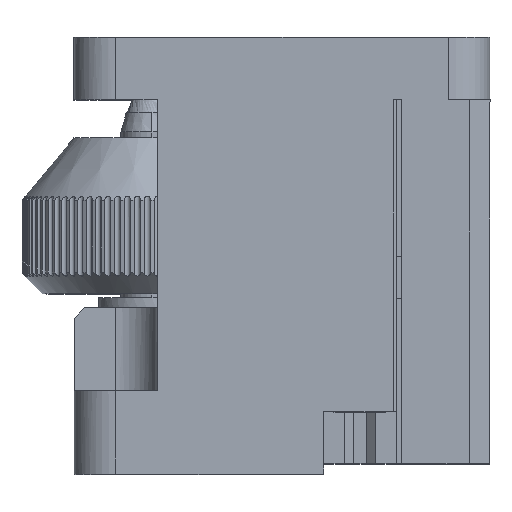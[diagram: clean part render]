
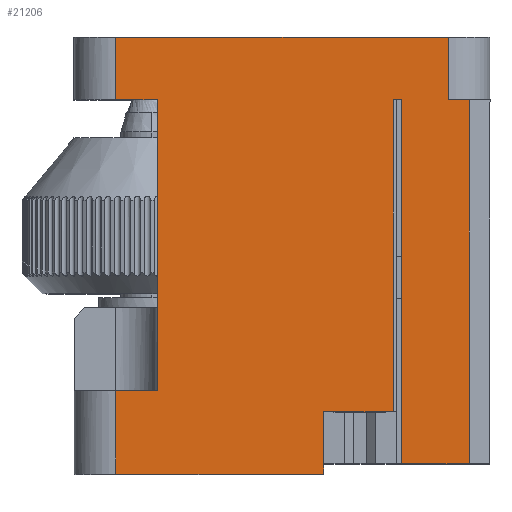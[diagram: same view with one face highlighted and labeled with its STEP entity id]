
A CAD part, top view. The second image highlights one B-rep face of the part: STEP entity #21206.
In plain terms, the highlighted planar face has unit normal (0, 0, 1).
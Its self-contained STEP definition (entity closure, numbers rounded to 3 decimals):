
#16689 = EDGE_CURVE ( 'NONE', #16700, #16692, #34047, .T. ) ;
#16692 = VERTEX_POINT ( 'NONE', #34043 ) ;
#16700 = VERTEX_POINT ( 'NONE', #34027 ) ;
#21167 = VERTEX_POINT ( 'NONE', #44595 ) ;
#21169 = ORIENTED_EDGE ( 'NONE', *, *, #21172, .T. ) ;
#21172 = EDGE_CURVE ( 'NONE', #21167, #21173, #44589, .T. ) ;
#21173 = VERTEX_POINT ( 'NONE', #44585 ) ;
#21175 = ORIENTED_EDGE ( 'NONE', *, *, #21176, .T. ) ;
#21176 = EDGE_CURVE ( 'NONE', #21173, #21177, #44584, .T. ) ;
#21177 = VERTEX_POINT ( 'NONE', #44580 ) ;
#21197 = ORIENTED_EDGE ( 'NONE', *, *, #22035, .T. ) ;
#21206 = ADVANCED_FACE ( 'NONE', ( #44681 ), #44682, .T. ) ;
#21207 = ORIENTED_EDGE ( 'NONE', *, *, #21267, .T. ) ;
#21233 = VERTEX_POINT ( 'NONE', #44766 ) ;
#21235 = ORIENTED_EDGE ( 'NONE', *, *, #21237, .F. ) ;
#21237 = EDGE_CURVE ( 'NONE', #21238, #21233, #44765, .T. ) ;
#21238 = VERTEX_POINT ( 'NONE', #44761 ) ;
#21240 = ORIENTED_EDGE ( 'NONE', *, *, #21242, .T. ) ;
#21242 = EDGE_CURVE ( 'NONE', #21238, #21167, #44759, .T. ) ;
#21253 = EDGE_CURVE ( 'NONE', #21293, #21269, #44803, .T. ) ;
#21267 = EDGE_CURVE ( 'NONE', #21269, #16700, #44844, .T. ) ;
#21269 = VERTEX_POINT ( 'NONE', #44839 ) ;
#21271 = ORIENTED_EDGE ( 'NONE', *, *, #16689, .T. ) ;
#21291 = ORIENTED_EDGE ( 'NONE', *, *, #21292, .T. ) ;
#21292 = EDGE_CURVE ( 'NONE', #21177, #21293, #44913, .T. ) ;
#21293 = VERTEX_POINT ( 'NONE', #44909 ) ;
#21295 = ORIENTED_EDGE ( 'NONE', *, *, #21253, .T. ) ;
#21304 = EDGE_CURVE ( 'NONE', #21329, #21332, #44891, .T. ) ;
#21306 = ORIENTED_EDGE ( 'NONE', *, *, #21308, .T. ) ;
#21308 = EDGE_CURVE ( 'NONE', #21332, #21309, #44948, .T. ) ;
#21309 = VERTEX_POINT ( 'NONE', #44944 ) ;
#21311 = ORIENTED_EDGE ( 'NONE', *, *, #21313, .F. ) ;
#21313 = EDGE_CURVE ( 'NONE', #21233, #21309, #44939, .T. ) ;
#21315 = ORIENTED_EDGE ( 'NONE', *, *, #21335, .T. ) ;
#21317 = ORIENTED_EDGE ( 'NONE', *, *, #21981, .T. ) ;
#21321 = ORIENTED_EDGE ( 'NONE', *, *, #21322, .T. ) ;
#21322 = EDGE_CURVE ( 'NONE', #22011, #21323, #44934, .T. ) ;
#21323 = VERTEX_POINT ( 'NONE', #44927 ) ;
#21326 = ORIENTED_EDGE ( 'NONE', *, *, #21327, .T. ) ;
#21327 = EDGE_CURVE ( 'NONE', #21323, #21329, #44925, .T. ) ;
#21329 = VERTEX_POINT ( 'NONE', #44962 ) ;
#21331 = ORIENTED_EDGE ( 'NONE', *, *, #21304, .T. ) ;
#21332 = VERTEX_POINT ( 'NONE', #44964 ) ;
#21335 = EDGE_CURVE ( 'NONE', #22033, #21982, #44994, .T. ) ;
#21338 = EDGE_LOOP ( 'NONE', ( #21207, #21271, #21197, #21315, #21317, #21321, #21326, #21331, #21306, #21311, #21235, #21240, #21169, #21175, #21291, #21295 ) ) ;
#21981 = EDGE_CURVE ( 'NONE', #21982, #22011, #46240, .T. ) ;
#21982 = VERTEX_POINT ( 'NONE', #46236 ) ;
#22011 = VERTEX_POINT ( 'NONE', #46386 ) ;
#22033 = VERTEX_POINT ( 'NONE', #46424 ) ;
#22035 = EDGE_CURVE ( 'NONE', #16692, #22033, #46423, .T. ) ;
#34027 = CARTESIAN_POINT ( 'NONE',  ( 7.828, -8.568, 40. ) ) ;
#34043 = CARTESIAN_POINT ( 'NONE',  ( 7.828, -2.568, 40. ) ) ;
#34044 = DIRECTION ( 'NONE',  ( 0., 1., 0. ) ) ;
#34045 = VECTOR ( 'NONE', #34044, 1000. ) ;
#34046 = CARTESIAN_POINT ( 'NONE',  ( 7.828, 27.432, 40. ) ) ;
#34047 = LINE ( 'NONE', #34046, #34045 ) ;
#44580 = CARTESIAN_POINT ( 'NONE',  ( -8.172, -0.568, 40. ) ) ;
#44581 = DIRECTION ( 'NONE',  ( 0., -1., 0. ) ) ;
#44582 = VECTOR ( 'NONE', #44581, 1000. ) ;
#44583 = CARTESIAN_POINT ( 'NONE',  ( -8.172, 27.432, 40. ) ) ;
#44584 = LINE ( 'NONE', #44583, #44582 ) ;
#44585 = CARTESIAN_POINT ( 'NONE',  ( -8.172, 27.432, 40. ) ) ;
#44586 = DIRECTION ( 'NONE',  ( 1., 0., 0. ) ) ;
#44587 = VECTOR ( 'NONE', #44586, 1000. ) ;
#44588 = CARTESIAN_POINT ( 'NONE',  ( 7.828, 27.432, 40. ) ) ;
#44589 = LINE ( 'NONE', #44588, #44587 ) ;
#44595 = CARTESIAN_POINT ( 'NONE',  ( -12.172, 27.432, 40. ) ) ;
#44681 = FACE_OUTER_BOUND ( 'NONE', #21338, .T. ) ;
#44682 = PLANE ( 'NONE',  #44724 ) ;
#44684 = DIRECTION ( 'NONE',  ( 0., 0., 1. ) ) ;
#44691 = CARTESIAN_POINT ( 'NONE',  ( 7.828, 27.432, 40. ) ) ;
#44712 = DIRECTION ( 'NONE',  ( 0., -1., 0. ) ) ;
#44724 = AXIS2_PLACEMENT_3D ( 'NONE', #44691, #44684, #44712 ) ;
#44756 = DIRECTION ( 'NONE',  ( 0., -1., 0. ) ) ;
#44757 = VECTOR ( 'NONE', #44756, 1000. ) ;
#44758 = CARTESIAN_POINT ( 'NONE',  ( -12.172, 27.432, 40. ) ) ;
#44759 = LINE ( 'NONE', #44758, #44757 ) ;
#44761 = CARTESIAN_POINT ( 'NONE',  ( -12.172, 33.432, 40. ) ) ;
#44762 = DIRECTION ( 'NONE',  ( 1., 0., 0. ) ) ;
#44763 = VECTOR ( 'NONE', #44762, 1000. ) ;
#44764 = CARTESIAN_POINT ( 'NONE',  ( 3.828, 33.432, 40. ) ) ;
#44765 = LINE ( 'NONE', #44764, #44763 ) ;
#44766 = CARTESIAN_POINT ( 'NONE',  ( 19.828, 33.432, 40. ) ) ;
#44800 = DIRECTION ( 'NONE',  ( 0., -1., 0. ) ) ;
#44801 = VECTOR ( 'NONE', #44800, 1000. ) ;
#44802 = CARTESIAN_POINT ( 'NONE',  ( -12.172, 27.432, 40. ) ) ;
#44803 = LINE ( 'NONE', #44802, #44801 ) ;
#44839 = CARTESIAN_POINT ( 'NONE',  ( -12.172, -8.568, 40. ) ) ;
#44841 = DIRECTION ( 'NONE',  ( 1., 0., 0. ) ) ;
#44842 = VECTOR ( 'NONE', #44841, 1000. ) ;
#44843 = CARTESIAN_POINT ( 'NONE',  ( 7.828, -8.568, 40. ) ) ;
#44844 = LINE ( 'NONE', #44843, #44842 ) ;
#44891 = LINE ( 'NONE', #44951, #44950 ) ;
#44909 = CARTESIAN_POINT ( 'NONE',  ( -12.172, -0.568, 40. ) ) ;
#44910 = DIRECTION ( 'NONE',  ( -1., 0., 0. ) ) ;
#44911 = VECTOR ( 'NONE', #44910, 1000. ) ;
#44912 = CARTESIAN_POINT ( 'NONE',  ( 7.828, -0.568, 40. ) ) ;
#44913 = LINE ( 'NONE', #44912, #44911 ) ;
#44925 = LINE ( 'NONE', #44961, #44960 ) ;
#44927 = CARTESIAN_POINT ( 'NONE',  ( 15.328, -7.568, 40. ) ) ;
#44928 = DIRECTION ( 'NONE',  ( 0., -1., 0. ) ) ;
#44929 = VECTOR ( 'NONE', #44928, 1000. ) ;
#44930 = CARTESIAN_POINT ( 'NONE',  ( 15.328, 27.432, 40. ) ) ;
#44934 = LINE ( 'NONE', #44930, #44929 ) ;
#44936 = DIRECTION ( 'NONE',  ( 0., -1., 0. ) ) ;
#44937 = VECTOR ( 'NONE', #44936, 1000. ) ;
#44938 = CARTESIAN_POINT ( 'NONE',  ( 19.828, 27.432, 40. ) ) ;
#44939 = LINE ( 'NONE', #44938, #44937 ) ;
#44944 = CARTESIAN_POINT ( 'NONE',  ( 19.828, 27.432, 40. ) ) ;
#44945 = DIRECTION ( 'NONE',  ( -1., 0., 0. ) ) ;
#44946 = VECTOR ( 'NONE', #44945, 1000. ) ;
#44947 = CARTESIAN_POINT ( 'NONE',  ( 7.828, 27.432, 40. ) ) ;
#44948 = LINE ( 'NONE', #44947, #44946 ) ;
#44949 = DIRECTION ( 'NONE',  ( 0., 1., 0. ) ) ;
#44950 = VECTOR ( 'NONE', #44949, 1000. ) ;
#44951 = CARTESIAN_POINT ( 'NONE',  ( 21.828, 27.432, 40. ) ) ;
#44960 = VECTOR ( 'NONE', #44963, 1000. ) ;
#44961 = CARTESIAN_POINT ( 'NONE',  ( 7.828, -7.568, 40. ) ) ;
#44962 = CARTESIAN_POINT ( 'NONE',  ( 21.828, -7.568, 40. ) ) ;
#44963 = DIRECTION ( 'NONE',  ( 1., 0., 0. ) ) ;
#44964 = CARTESIAN_POINT ( 'NONE',  ( 21.828, 27.432, 40. ) ) ;
#44991 = DIRECTION ( 'NONE',  ( 0., 1., 0. ) ) ;
#44992 = VECTOR ( 'NONE', #44991, 1000. ) ;
#44993 = CARTESIAN_POINT ( 'NONE',  ( 14.528, 27.432, 40. ) ) ;
#44994 = LINE ( 'NONE', #44993, #44992 ) ;
#46236 = CARTESIAN_POINT ( 'NONE',  ( 14.528, 27.432, 40. ) ) ;
#46237 = DIRECTION ( 'NONE',  ( 1., 0., 0. ) ) ;
#46238 = VECTOR ( 'NONE', #46237, 1000. ) ;
#46239 = CARTESIAN_POINT ( 'NONE',  ( 3.828, 27.432, 40. ) ) ;
#46240 = LINE ( 'NONE', #46239, #46238 ) ;
#46386 = CARTESIAN_POINT ( 'NONE',  ( 15.328, 27.432, 40. ) ) ;
#46420 = DIRECTION ( 'NONE',  ( 1., 0., 0. ) ) ;
#46421 = VECTOR ( 'NONE', #46420, 1000. ) ;
#46422 = CARTESIAN_POINT ( 'NONE',  ( 7.828, -2.568, 40. ) ) ;
#46423 = LINE ( 'NONE', #46422, #46421 ) ;
#46424 = CARTESIAN_POINT ( 'NONE',  ( 14.528, -2.568, 40. ) ) ;
